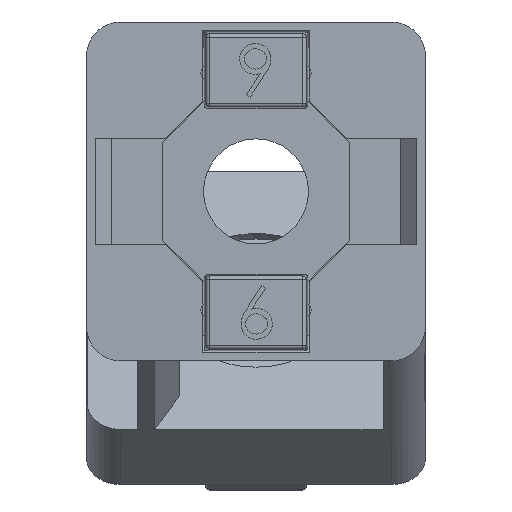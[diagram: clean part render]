
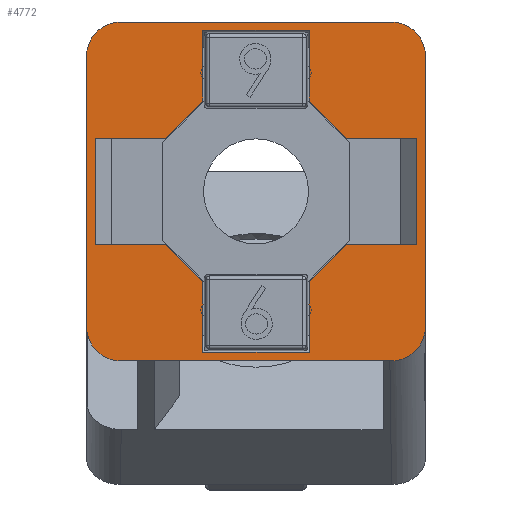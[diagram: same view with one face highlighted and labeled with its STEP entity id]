
A CAD part, front view. The second image highlights one B-rep face of the part: STEP entity #4772.
In plain terms, the highlighted planar face has unit normal (0, -1, 0).
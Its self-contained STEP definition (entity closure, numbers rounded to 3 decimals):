
#4365=CARTESIAN_POINT('',(-8.,0.,10.0));
#4366=VERTEX_POINT('',#4365);
#4373=CARTESIAN_POINT('',(8.,0.,10.0));
#4374=VERTEX_POINT('',#4373);
#4375=CARTESIAN_POINT('',(-8.,0.,10.0));
#4376=DIRECTION('',(1.0,0.0,0.0));
#4377=VECTOR('',#4376,16.);
#4378=LINE('',#4375,#4377);
#4379=EDGE_CURVE('',#4366,#4374,#4378,.T.);
#4434=CARTESIAN_POINT('',(10.0,0.,8.));
#4435=VERTEX_POINT('',#4434);
#4436=CARTESIAN_POINT('',(10.0,0.,-8.));
#4437=VERTEX_POINT('',#4436);
#4438=CARTESIAN_POINT('',(10.0,0.,8.));
#4439=DIRECTION('',(0.0,0.0,-1.0));
#4440=VECTOR('',#4439,16.);
#4441=LINE('',#4438,#4440);
#4442=EDGE_CURVE('',#4435,#4437,#4441,.T.);
#4474=CARTESIAN_POINT('',(8.,0.,-10.0));
#4475=VERTEX_POINT('',#4474);
#4476=CARTESIAN_POINT('',(-8.,0.,-10.0));
#4477=VERTEX_POINT('',#4476);
#4478=CARTESIAN_POINT('',(8.,0.,-10.0));
#4479=DIRECTION('',(-1.0,0.0,0.0));
#4480=VECTOR('',#4479,16.);
#4481=LINE('',#4478,#4480);
#4482=EDGE_CURVE('',#4475,#4477,#4481,.T.);
#4574=CARTESIAN_POINT('',(-10.0,0.,-8.));
#4575=VERTEX_POINT('',#4574);
#4582=CARTESIAN_POINT('',(-10.0,0.,8.));
#4583=VERTEX_POINT('',#4582);
#4584=CARTESIAN_POINT('',(-10.0,0.,-8.));
#4585=DIRECTION('',(0.0,0.0,1.0));
#4586=VECTOR('',#4585,16.);
#4587=LINE('',#4584,#4586);
#4588=EDGE_CURVE('',#4575,#4583,#4587,.T.);
#4603=CARTESIAN_POINT('',(10.0,0.,10.0));
#4604=DIRECTION('',(0.0,1.0,0.0));
#4605=DIRECTION('',(0.0,0.0,1.0));
#4606=AXIS2_PLACEMENT_3D('',#4603,#4604,#4605);
#4607=PLANE('',#4606);
#4608=ORIENTED_EDGE('',*,*,#4588,.F.);
#4609=CARTESIAN_POINT('',(-8.,0.,-8.));
#4610=DIRECTION('',(0.,-1.0,0.));
#4611=DIRECTION('',(0.,0.,-1.));
#4612=AXIS2_PLACEMENT_3D('',#4609,#4610,#4611);
#4613=CIRCLE('',#4612,2.);
#4614=EDGE_CURVE('',#4575,#4477,#4613,.T.);
#4615=ORIENTED_EDGE('',*,*,#4614,.T.);
#4616=ORIENTED_EDGE('',*,*,#4482,.F.);
#4617=CARTESIAN_POINT('',(8.,0.,-8.));
#4618=DIRECTION('',(0.0,-1.0,0.0));
#4619=DIRECTION('',(1.,0.0,0.));
#4620=AXIS2_PLACEMENT_3D('',#4617,#4618,#4619);
#4621=CIRCLE('',#4620,2.);
#4622=EDGE_CURVE('',#4475,#4437,#4621,.T.);
#4623=ORIENTED_EDGE('',*,*,#4622,.T.);
#4624=ORIENTED_EDGE('',*,*,#4442,.F.);
#4625=CARTESIAN_POINT('',(8.,0.,8.));
#4626=DIRECTION('',(0.0,-1.0,0.0));
#4627=DIRECTION('',(0.,0.0,1.));
#4628=AXIS2_PLACEMENT_3D('',#4625,#4626,#4627);
#4629=CIRCLE('',#4628,2.);
#4630=EDGE_CURVE('',#4435,#4374,#4629,.T.);
#4631=ORIENTED_EDGE('',*,*,#4630,.T.);
#4632=ORIENTED_EDGE('',*,*,#4379,.F.);
#4633=CARTESIAN_POINT('',(-8.,0.,8.));
#4634=DIRECTION('',(0.0,-1.0,0.0));
#4635=DIRECTION('',(-1.,0.0,0.));
#4636=AXIS2_PLACEMENT_3D('',#4633,#4634,#4635);
#4637=CIRCLE('',#4636,2.);
#4638=EDGE_CURVE('',#4366,#4583,#4637,.T.);
#4639=ORIENTED_EDGE('',*,*,#4638,.T.);
#4640=EDGE_LOOP('',(#4608,#4615,#4616,#4623,#4624,#4631,#4632,#4639));
#4641=FACE_OUTER_BOUND('',#4640,.T.);
#4642=CARTESIAN_POINT('',(-9.5,0.,3.15));
#4643=VERTEX_POINT('',#4642);
#4644=CARTESIAN_POINT('',(-9.5,0.,-3.15));
#4645=VERTEX_POINT('',#4644);
#4646=CARTESIAN_POINT('',(-9.5,0.,3.15));
#4647=DIRECTION('',(0.0,0.0,-1.0));
#4648=VECTOR('',#4647,6.3);
#4649=LINE('',#4646,#4648);
#4650=EDGE_CURVE('',#4643,#4645,#4649,.T.);
#4651=ORIENTED_EDGE('',*,*,#4650,.F.);
#4652=CARTESIAN_POINT('',(-5.335,0.,3.15));
#4653=VERTEX_POINT('',#4652);
#4654=CARTESIAN_POINT('',(-5.335,0.,3.15));
#4655=DIRECTION('',(-1.0,0.0,0.0));
#4656=VECTOR('',#4655,4.165);
#4657=LINE('',#4654,#4656);
#4658=EDGE_CURVE('',#4653,#4643,#4657,.T.);
#4659=ORIENTED_EDGE('',*,*,#4658,.F.);
#4660=CARTESIAN_POINT('',(-3.15,0.,5.335));
#4661=VERTEX_POINT('',#4660);
#4662=CARTESIAN_POINT('',(-3.15,0.,5.335));
#4663=DIRECTION('',(-0.707,0.,-0.707));
#4664=VECTOR('',#4663,3.09);
#4665=LINE('',#4662,#4664);
#4666=EDGE_CURVE('',#4661,#4653,#4665,.T.);
#4667=ORIENTED_EDGE('',*,*,#4666,.F.);
#4668=CARTESIAN_POINT('',(-3.15,0.,9.5));
#4669=VERTEX_POINT('',#4668);
#4670=CARTESIAN_POINT('',(-3.15,0.,9.5));
#4671=DIRECTION('',(0.0,0.0,-1.0));
#4672=VECTOR('',#4671,4.165);
#4673=LINE('',#4670,#4672);
#4674=EDGE_CURVE('',#4669,#4661,#4673,.T.);
#4675=ORIENTED_EDGE('',*,*,#4674,.F.);
#4676=CARTESIAN_POINT('',(3.15,0.,9.5));
#4677=VERTEX_POINT('',#4676);
#4678=CARTESIAN_POINT('',(3.15,0.,9.5));
#4679=DIRECTION('',(-1.0,0.0,0.0));
#4680=VECTOR('',#4679,6.3);
#4681=LINE('',#4678,#4680);
#4682=EDGE_CURVE('',#4677,#4669,#4681,.T.);
#4683=ORIENTED_EDGE('',*,*,#4682,.F.);
#4684=CARTESIAN_POINT('',(3.15,0.,5.335));
#4685=VERTEX_POINT('',#4684);
#4686=CARTESIAN_POINT('',(3.15,0.,5.335));
#4687=DIRECTION('',(0.0,0.0,1.0));
#4688=VECTOR('',#4687,4.165);
#4689=LINE('',#4686,#4688);
#4690=EDGE_CURVE('',#4685,#4677,#4689,.T.);
#4691=ORIENTED_EDGE('',*,*,#4690,.F.);
#4692=CARTESIAN_POINT('',(5.335,0.,3.15));
#4693=VERTEX_POINT('',#4692);
#4694=CARTESIAN_POINT('',(5.335,0.,3.15));
#4695=DIRECTION('',(-0.707,0.,0.707));
#4696=VECTOR('',#4695,3.09);
#4697=LINE('',#4694,#4696);
#4698=EDGE_CURVE('',#4693,#4685,#4697,.T.);
#4699=ORIENTED_EDGE('',*,*,#4698,.F.);
#4700=CARTESIAN_POINT('',(9.5,0.,3.15));
#4701=VERTEX_POINT('',#4700);
#4702=CARTESIAN_POINT('',(9.5,0.,3.15));
#4703=DIRECTION('',(-1.0,0.0,0.0));
#4704=VECTOR('',#4703,4.165);
#4705=LINE('',#4702,#4704);
#4706=EDGE_CURVE('',#4701,#4693,#4705,.T.);
#4707=ORIENTED_EDGE('',*,*,#4706,.F.);
#4708=CARTESIAN_POINT('',(9.5,0.,-3.15));
#4709=VERTEX_POINT('',#4708);
#4710=CARTESIAN_POINT('',(9.5,0.,-3.15));
#4711=DIRECTION('',(0.0,0.0,1.0));
#4712=VECTOR('',#4711,6.3);
#4713=LINE('',#4710,#4712);
#4714=EDGE_CURVE('',#4709,#4701,#4713,.T.);
#4715=ORIENTED_EDGE('',*,*,#4714,.F.);
#4716=CARTESIAN_POINT('',(5.335,0.,-3.15));
#4717=VERTEX_POINT('',#4716);
#4718=CARTESIAN_POINT('',(5.335,0.,-3.15));
#4719=DIRECTION('',(1.0,0.0,0.0));
#4720=VECTOR('',#4719,4.165);
#4721=LINE('',#4718,#4720);
#4722=EDGE_CURVE('',#4717,#4709,#4721,.T.);
#4723=ORIENTED_EDGE('',*,*,#4722,.F.);
#4724=CARTESIAN_POINT('',(3.15,0.,-5.335));
#4725=VERTEX_POINT('',#4724);
#4726=CARTESIAN_POINT('',(3.15,0.,-5.335));
#4727=DIRECTION('',(0.707,0.,0.707));
#4728=VECTOR('',#4727,3.09);
#4729=LINE('',#4726,#4728);
#4730=EDGE_CURVE('',#4725,#4717,#4729,.T.);
#4731=ORIENTED_EDGE('',*,*,#4730,.F.);
#4732=CARTESIAN_POINT('',(3.15,0.,-9.5));
#4733=VERTEX_POINT('',#4732);
#4734=CARTESIAN_POINT('',(3.15,0.,-9.5));
#4735=DIRECTION('',(0.0,0.0,1.0));
#4736=VECTOR('',#4735,4.165);
#4737=LINE('',#4734,#4736);
#4738=EDGE_CURVE('',#4733,#4725,#4737,.T.);
#4739=ORIENTED_EDGE('',*,*,#4738,.F.);
#4740=CARTESIAN_POINT('',(-3.15,0.,-9.5));
#4741=VERTEX_POINT('',#4740);
#4742=CARTESIAN_POINT('',(-3.15,0.,-9.5));
#4743=DIRECTION('',(1.0,0.0,0.0));
#4744=VECTOR('',#4743,6.3);
#4745=LINE('',#4742,#4744);
#4746=EDGE_CURVE('',#4741,#4733,#4745,.T.);
#4747=ORIENTED_EDGE('',*,*,#4746,.F.);
#4748=CARTESIAN_POINT('',(-3.15,0.,-5.335));
#4749=VERTEX_POINT('',#4748);
#4750=CARTESIAN_POINT('',(-3.15,0.,-5.335));
#4751=DIRECTION('',(0.0,0.0,-1.0));
#4752=VECTOR('',#4751,4.165);
#4753=LINE('',#4750,#4752);
#4754=EDGE_CURVE('',#4749,#4741,#4753,.T.);
#4755=ORIENTED_EDGE('',*,*,#4754,.F.);
#4756=CARTESIAN_POINT('',(-5.335,0.,-3.15));
#4757=VERTEX_POINT('',#4756);
#4758=CARTESIAN_POINT('',(-5.335,0.,-3.15));
#4759=DIRECTION('',(0.707,0.,-0.707));
#4760=VECTOR('',#4759,3.09);
#4761=LINE('',#4758,#4760);
#4762=EDGE_CURVE('',#4757,#4749,#4761,.T.);
#4763=ORIENTED_EDGE('',*,*,#4762,.F.);
#4764=CARTESIAN_POINT('',(-9.5,0.,-3.15));
#4765=DIRECTION('',(1.0,0.0,0.0));
#4766=VECTOR('',#4765,4.165);
#4767=LINE('',#4764,#4766);
#4768=EDGE_CURVE('',#4645,#4757,#4767,.T.);
#4769=ORIENTED_EDGE('',*,*,#4768,.F.);
#4770=EDGE_LOOP('',(#4651,#4659,#4667,#4675,#4683,#4691,#4699,#4707,#4715,#4723,#4731,#4739,#4747,#4755,#4763,#4769));
#4771=FACE_BOUND('',#4770,.T.);
#4772=ADVANCED_FACE('',(#4641,#4771),#4607,.F.);
